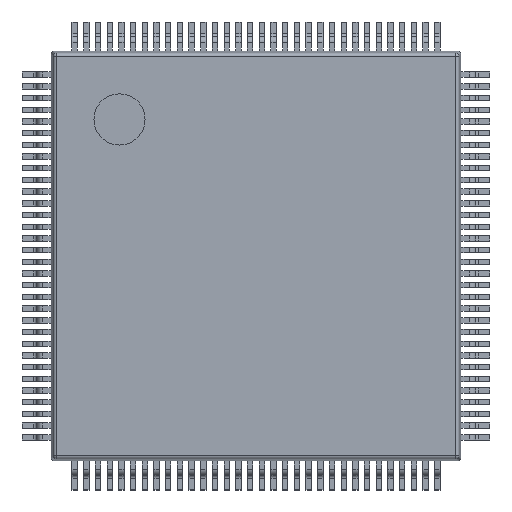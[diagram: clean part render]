
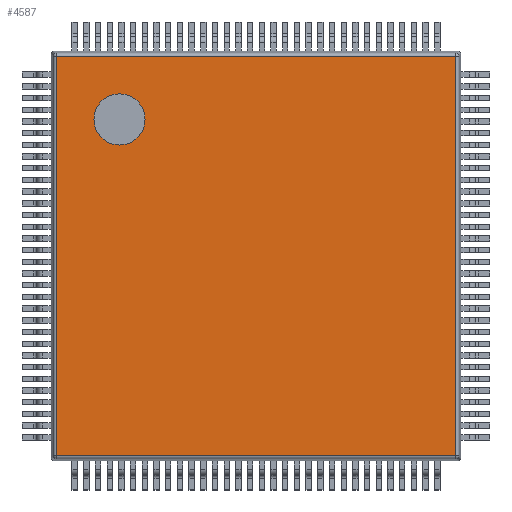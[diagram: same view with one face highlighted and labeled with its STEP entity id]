
A CAD part, top view. The second image highlights one B-rep face of the part: STEP entity #4587.
In plain terms, the highlighted planar face has unit normal (0, 0, 1).
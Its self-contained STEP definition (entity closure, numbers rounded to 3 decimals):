
#3491 = CYLINDRICAL_SURFACE('',#3492,0.1);
#3492 = AXIS2_PLACEMENT_3D('',#3493,#3494,#3495);
#3493 = CARTESIAN_POINT('',(0.166,0.076,1.5));
#3494 = DIRECTION('',(0.,1.,-0.));
#3495 = DIRECTION('',(-0.995,0.,0.105));
#4140 = VERTEX_POINT('',#4141);
#4141 = CARTESIAN_POINT('',(0.166,0.166,1.6));
#4161 = EDGE_CURVE('',#4140,#4162,#4164,.T.);
#4162 = VERTEX_POINT('',#4163);
#4163 = CARTESIAN_POINT('',(0.166,13.834,1.6));
#4164 = SURFACE_CURVE('',#4165,(#4169,#4176),.PCURVE_S1.);
#4165 = LINE('',#4166,#4167);
#4166 = CARTESIAN_POINT('',(0.166,0.076,1.6));
#4167 = VECTOR('',#4168,1.);
#4168 = DIRECTION('',(0.,1.,-0.));
#4169 = PCURVE('',#3491,#4170);
#4170 = DEFINITIONAL_REPRESENTATION('',(#4171),#4175);
#4171 = LINE('',#4172,#4173);
#4172 = CARTESIAN_POINT('',(1.466,0.));
#4173 = VECTOR('',#4174,1.);
#4174 = DIRECTION('',(0.,1.));
#4175 = ( GEOMETRIC_REPRESENTATION_CONTEXT(2) 
PARAMETRIC_REPRESENTATION_CONTEXT() REPRESENTATION_CONTEXT('2D SPACE',''
  ) );
#4176 = PCURVE('',#4177,#4182);
#4177 = PLANE('',#4178);
#4178 = AXIS2_PLACEMENT_3D('',#4179,#4180,#4181);
#4179 = CARTESIAN_POINT('',(0.,0.,1.6));
#4180 = DIRECTION('',(0.,0.,1.));
#4181 = DIRECTION('',(1.,0.,-0.));
#4182 = DEFINITIONAL_REPRESENTATION('',(#4183),#4187);
#4183 = LINE('',#4184,#4185);
#4184 = CARTESIAN_POINT('',(0.166,0.076));
#4185 = VECTOR('',#4186,1.);
#4186 = DIRECTION('',(0.,1.));
#4187 = ( GEOMETRIC_REPRESENTATION_CONTEXT(2) 
PARAMETRIC_REPRESENTATION_CONTEXT() REPRESENTATION_CONTEXT('2D SPACE',''
  ) );
#4357 = CYLINDRICAL_SURFACE('',#4358,0.1);
#4358 = AXIS2_PLACEMENT_3D('',#4359,#4360,#4361);
#4359 = CARTESIAN_POINT('',(0.076,13.834,1.5));
#4360 = DIRECTION('',(1.,0.,0.));
#4361 = DIRECTION('',(-0.,0.995,0.105));
#4530 = CYLINDRICAL_SURFACE('',#4531,0.1);
#4531 = AXIS2_PLACEMENT_3D('',#4532,#4533,#4534);
#4532 = CARTESIAN_POINT('',(0.076,0.166,1.5));
#4533 = DIRECTION('',(1.,-0.,0.));
#4534 = DIRECTION('',(-0.,-0.995,0.105));
#4587 = ADVANCED_FACE('',(#4588,#4663),#4177,.T.);
#4588 = FACE_BOUND('',#4589,.T.);
#4589 = EDGE_LOOP('',(#4590,#4591,#4614,#4642));
#4590 = ORIENTED_EDGE('',*,*,#4161,.F.);
#4591 = ORIENTED_EDGE('',*,*,#4592,.T.);
#4592 = EDGE_CURVE('',#4140,#4593,#4595,.T.);
#4593 = VERTEX_POINT('',#4594);
#4594 = CARTESIAN_POINT('',(13.834,0.166,1.6));
#4595 = SURFACE_CURVE('',#4596,(#4600,#4607),.PCURVE_S1.);
#4596 = LINE('',#4597,#4598);
#4597 = CARTESIAN_POINT('',(0.076,0.166,1.6));
#4598 = VECTOR('',#4599,1.);
#4599 = DIRECTION('',(1.,-0.,0.));
#4600 = PCURVE('',#4177,#4601);
#4601 = DEFINITIONAL_REPRESENTATION('',(#4602),#4606);
#4602 = LINE('',#4603,#4604);
#4603 = CARTESIAN_POINT('',(0.076,0.166));
#4604 = VECTOR('',#4605,1.);
#4605 = DIRECTION('',(1.,0.));
#4606 = ( GEOMETRIC_REPRESENTATION_CONTEXT(2) 
PARAMETRIC_REPRESENTATION_CONTEXT() REPRESENTATION_CONTEXT('2D SPACE',''
  ) );
#4607 = PCURVE('',#4530,#4608);
#4608 = DEFINITIONAL_REPRESENTATION('',(#4609),#4613);
#4609 = LINE('',#4610,#4611);
#4610 = CARTESIAN_POINT('',(-1.466,0.));
#4611 = VECTOR('',#4612,1.);
#4612 = DIRECTION('',(-0.,1.));
#4613 = ( GEOMETRIC_REPRESENTATION_CONTEXT(2) 
PARAMETRIC_REPRESENTATION_CONTEXT() REPRESENTATION_CONTEXT('2D SPACE',''
  ) );
#4614 = ORIENTED_EDGE('',*,*,#4615,.T.);
#4615 = EDGE_CURVE('',#4593,#4616,#4618,.T.);
#4616 = VERTEX_POINT('',#4617);
#4617 = CARTESIAN_POINT('',(13.834,13.834,1.6));
#4618 = SURFACE_CURVE('',#4619,(#4623,#4630),.PCURVE_S1.);
#4619 = LINE('',#4620,#4621);
#4620 = CARTESIAN_POINT('',(13.834,0.076,1.6));
#4621 = VECTOR('',#4622,1.);
#4622 = DIRECTION('',(0.,1.,-0.));
#4623 = PCURVE('',#4177,#4624);
#4624 = DEFINITIONAL_REPRESENTATION('',(#4625),#4629);
#4625 = LINE('',#4626,#4627);
#4626 = CARTESIAN_POINT('',(13.834,0.076));
#4627 = VECTOR('',#4628,1.);
#4628 = DIRECTION('',(0.,1.));
#4629 = ( GEOMETRIC_REPRESENTATION_CONTEXT(2) 
PARAMETRIC_REPRESENTATION_CONTEXT() REPRESENTATION_CONTEXT('2D SPACE',''
  ) );
#4630 = PCURVE('',#4631,#4636);
#4631 = CYLINDRICAL_SURFACE('',#4632,0.1);
#4632 = AXIS2_PLACEMENT_3D('',#4633,#4634,#4635);
#4633 = CARTESIAN_POINT('',(13.834,0.076,1.5));
#4634 = DIRECTION('',(0.,1.,-0.));
#4635 = DIRECTION('',(0.,0.,1.));
#4636 = DEFINITIONAL_REPRESENTATION('',(#4637),#4641);
#4637 = LINE('',#4638,#4639);
#4638 = CARTESIAN_POINT('',(0.,0.));
#4639 = VECTOR('',#4640,1.);
#4640 = DIRECTION('',(0.,1.));
#4641 = ( GEOMETRIC_REPRESENTATION_CONTEXT(2) 
PARAMETRIC_REPRESENTATION_CONTEXT() REPRESENTATION_CONTEXT('2D SPACE',''
  ) );
#4642 = ORIENTED_EDGE('',*,*,#4643,.F.);
#4643 = EDGE_CURVE('',#4162,#4616,#4644,.T.);
#4644 = SURFACE_CURVE('',#4645,(#4649,#4656),.PCURVE_S1.);
#4645 = LINE('',#4646,#4647);
#4646 = CARTESIAN_POINT('',(0.076,13.834,1.6));
#4647 = VECTOR('',#4648,1.);
#4648 = DIRECTION('',(1.,0.,0.));
#4649 = PCURVE('',#4177,#4650);
#4650 = DEFINITIONAL_REPRESENTATION('',(#4651),#4655);
#4651 = LINE('',#4652,#4653);
#4652 = CARTESIAN_POINT('',(0.076,13.834));
#4653 = VECTOR('',#4654,1.);
#4654 = DIRECTION('',(1.,0.));
#4655 = ( GEOMETRIC_REPRESENTATION_CONTEXT(2) 
PARAMETRIC_REPRESENTATION_CONTEXT() REPRESENTATION_CONTEXT('2D SPACE',''
  ) );
#4656 = PCURVE('',#4357,#4657);
#4657 = DEFINITIONAL_REPRESENTATION('',(#4658),#4662);
#4658 = LINE('',#4659,#4660);
#4659 = CARTESIAN_POINT('',(1.466,0.));
#4660 = VECTOR('',#4661,1.);
#4661 = DIRECTION('',(0.,1.));
#4662 = ( GEOMETRIC_REPRESENTATION_CONTEXT(2) 
PARAMETRIC_REPRESENTATION_CONTEXT() REPRESENTATION_CONTEXT('2D SPACE',''
  ) );
#4663 = FACE_BOUND('',#4664,.T.);
#4664 = EDGE_LOOP('',(#4665));
#4665 = ORIENTED_EDGE('',*,*,#4666,.F.);
#4666 = EDGE_CURVE('',#4667,#4667,#4669,.T.);
#4667 = VERTEX_POINT('',#4668);
#4668 = CARTESIAN_POINT('',(3.208,11.667,1.6));
#4669 = SURFACE_CURVE('',#4670,(#4675,#4682),.PCURVE_S1.);
#4670 = CIRCLE('',#4671,0.875);
#4671 = AXIS2_PLACEMENT_3D('',#4672,#4673,#4674);
#4672 = CARTESIAN_POINT('',(2.333,11.667,1.6));
#4673 = DIRECTION('',(0.,0.,1.));
#4674 = DIRECTION('',(1.,0.,-0.));
#4675 = PCURVE('',#4177,#4676);
#4676 = DEFINITIONAL_REPRESENTATION('',(#4677),#4681);
#4677 = CIRCLE('',#4678,0.875);
#4678 = AXIS2_PLACEMENT_2D('',#4679,#4680);
#4679 = CARTESIAN_POINT('',(2.333,11.667));
#4680 = DIRECTION('',(1.,0.));
#4681 = ( GEOMETRIC_REPRESENTATION_CONTEXT(2) 
PARAMETRIC_REPRESENTATION_CONTEXT() REPRESENTATION_CONTEXT('2D SPACE',''
  ) );
#4682 = PCURVE('',#4683,#4688);
#4683 = CYLINDRICAL_SURFACE('',#4684,0.875);
#4684 = AXIS2_PLACEMENT_3D('',#4685,#4686,#4687);
#4685 = CARTESIAN_POINT('',(2.333,11.667,1.5));
#4686 = DIRECTION('',(0.,0.,1.));
#4687 = DIRECTION('',(1.,0.,-0.));
#4688 = DEFINITIONAL_REPRESENTATION('',(#4689),#4693);
#4689 = LINE('',#4690,#4691);
#4690 = CARTESIAN_POINT('',(0.,0.1));
#4691 = VECTOR('',#4692,1.);
#4692 = DIRECTION('',(1.,0.));
#4693 = ( GEOMETRIC_REPRESENTATION_CONTEXT(2) 
PARAMETRIC_REPRESENTATION_CONTEXT() REPRESENTATION_CONTEXT('2D SPACE',''
  ) );
